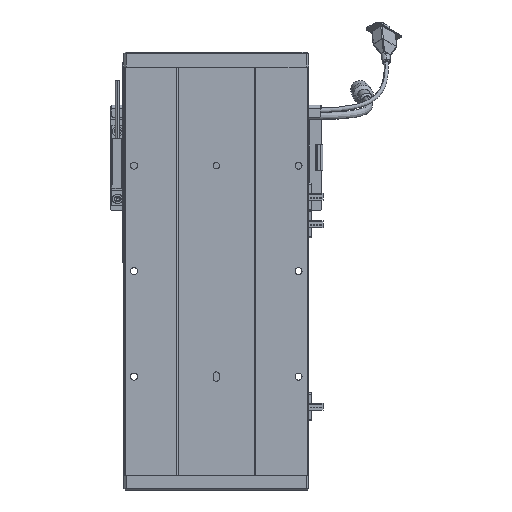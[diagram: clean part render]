
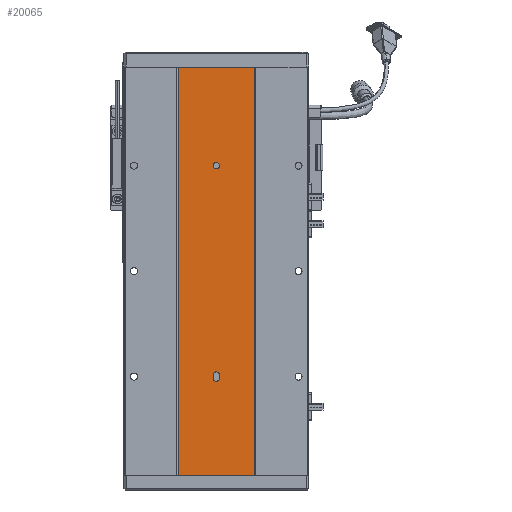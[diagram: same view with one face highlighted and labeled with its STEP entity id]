
A CAD part, front view. The second image highlights one B-rep face of the part: STEP entity #20065.
In plain terms, the highlighted planar face has unit normal (0, -1, 0).
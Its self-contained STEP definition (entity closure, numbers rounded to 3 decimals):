
#2051 = VERTEX_POINT ( 'NONE', #54119 ) ;
#2201 = ORIENTED_EDGE ( 'NONE', *, *, #22267, .F. ) ;
#2232 = FACE_BOUND ( 'NONE', #24826, .T. ) ;
#2708 = ORIENTED_EDGE ( 'NONE', *, *, #57989, .T. ) ;
#3036 = ORIENTED_EDGE ( 'NONE', *, *, #32702, .F. ) ;
#5076 = LINE ( 'NONE', #44108, #45226 ) ;
#5407 = CARTESIAN_POINT ( 'NONE',  ( 3277.529, 1415.701, 95. ) ) ;
#5627 = CARTESIAN_POINT ( 'NONE',  ( 3280.529, 1415.701, 92. ) ) ;
#7286 = VERTEX_POINT ( 'NONE', #48702 ) ;
#7904 = EDGE_CURVE ( 'NONE', #56303, #29080, #41104, .T. ) ;
#8621 = VERTEX_POINT ( 'NONE', #5407 ) ;
#8912 = CARTESIAN_POINT ( 'NONE',  ( 3280.529, 1415.701, 290.5 ) ) ;
#9017 = VECTOR ( 'NONE', #63901, 1000. ) ;
#12755 = DIRECTION ( 'NONE',  ( 1., 0., 0. ) ) ;
#13041 = CARTESIAN_POINT ( 'NONE',  ( 3316.311, 1415.701, 0. ) ) ;
#13828 = ORIENTED_EDGE ( 'NONE', *, *, #32103, .F. ) ;
#13896 = CARTESIAN_POINT ( 'NONE',  ( 3316.311, 1415.701, 387. ) ) ;
#14278 = DIRECTION ( 'NONE',  ( 0., -1., 0. ) ) ;
#14782 = DIRECTION ( 'NONE',  ( 0., -1., 0. ) ) ;
#15936 = VERTEX_POINT ( 'NONE', #56064 ) ;
#16195 = DIRECTION ( 'NONE',  ( 0., -1., 0. ) ) ;
#16410 = VECTOR ( 'NONE', #34480, 1000. ) ;
#16857 = CARTESIAN_POINT ( 'NONE',  ( 3277.529, 1415.701, 95. ) ) ;
#17552 = DIRECTION ( 'NONE',  ( 1., 0., 0. ) ) ;
#17655 = AXIS2_PLACEMENT_3D ( 'NONE', #62516, #36793, #26228 ) ;
#17664 = AXIS2_PLACEMENT_3D ( 'NONE', #24810, #14782, #61754 ) ;
#17772 = CARTESIAN_POINT ( 'NONE',  ( 3244.748, 1415.701, 387. ) ) ;
#18653 = CARTESIAN_POINT ( 'NONE',  ( 3244.748, 1415.701, 387. ) ) ;
#19867 = CARTESIAN_POINT ( 'NONE',  ( 3280.529, 1415.701, 296.5 ) ) ;
#20065 = ADVANCED_FACE ( 'NONE', ( #52278, #2232, #45689 ), #44299, .F. ) ;
#20263 = EDGE_CURVE ( 'NONE', #62845, #8621, #39987, .T. ) ;
#21365 = VERTEX_POINT ( 'NONE', #19867 ) ;
#22067 = VERTEX_POINT ( 'NONE', #8912 ) ;
#22267 = EDGE_CURVE ( 'NONE', #8621, #56303, #42633, .T. ) ;
#23764 = CARTESIAN_POINT ( 'NONE',  ( 3283.529, 1415.701, 92. ) ) ;
#24346 = CARTESIAN_POINT ( 'NONE',  ( 3244.748, 1415.701, 387. ) ) ;
#24639 = ORIENTED_EDGE ( 'NONE', *, *, #28424, .F. ) ;
#24810 = CARTESIAN_POINT ( 'NONE',  ( 3280.529, 1415.701, 95. ) ) ;
#24826 = EDGE_LOOP ( 'NONE', ( #3036, #68092 ) ) ;
#25992 = AXIS2_PLACEMENT_3D ( 'NONE', #24346, #55321, #65925 ) ;
#26228 = DIRECTION ( 'NONE',  ( 0., 0., -1. ) ) ;
#26233 = DIRECTION ( 'NONE',  ( 0., -1., 0. ) ) ;
#27730 = CARTESIAN_POINT ( 'NONE',  ( 3277.529, 1415.701, 92. ) ) ;
#28424 = EDGE_CURVE ( 'NONE', #7286, #38856, #57790, .T. ) ;
#28938 = DIRECTION ( 'NONE',  ( 0., 0., -1. ) ) ;
#29080 = VERTEX_POINT ( 'NONE', #62832 ) ;
#30386 = EDGE_CURVE ( 'NONE', #15936, #38856, #5076, .T. ) ;
#31525 = CARTESIAN_POINT ( 'NONE',  ( 3280.529, 1415.701, 92. ) ) ;
#32103 = EDGE_CURVE ( 'NONE', #2051, #7286, #44183, .T. ) ;
#32702 = EDGE_CURVE ( 'NONE', #22067, #21365, #54791, .T. ) ;
#34480 = DIRECTION ( 'NONE',  ( 0., 0., -1. ) ) ;
#34858 = CARTESIAN_POINT ( 'NONE',  ( 3280.529, 1415.701, 293.5 ) ) ;
#35273 = LINE ( 'NONE', #18653, #16410 ) ;
#35856 = AXIS2_PLACEMENT_3D ( 'NONE', #34858, #14278, #45859 ) ;
#36098 = ORIENTED_EDGE ( 'NONE', *, *, #30386, .T. ) ;
#36143 = DIRECTION ( 'NONE',  ( 0., 0., -1. ) ) ;
#36793 = DIRECTION ( 'NONE',  ( 0., -1., 0. ) ) ;
#38856 = VERTEX_POINT ( 'NONE', #13041 ) ;
#39044 = EDGE_CURVE ( 'NONE', #21365, #22067, #60389, .T. ) ;
#39987 = CIRCLE ( 'NONE', #17664, 3. ) ;
#41104 = CIRCLE ( 'NONE', #56185, 3. ) ;
#41252 = VECTOR ( 'NONE', #44510, 1000. ) ;
#41926 = ORIENTED_EDGE ( 'NONE', *, *, #7904, .F. ) ;
#42633 = LINE ( 'NONE', #16857, #9017 ) ;
#44108 = CARTESIAN_POINT ( 'NONE',  ( 3244.748, 1415.701, 0. ) ) ;
#44129 = EDGE_CURVE ( 'NONE', #29080, #53529, #65492, .T. ) ;
#44183 = LINE ( 'NONE', #17772, #54862 ) ;
#44299 = PLANE ( 'NONE',  #25992 ) ;
#44510 = DIRECTION ( 'NONE',  ( 0., 0., 1. ) ) ;
#44522 = LINE ( 'NONE', #59696, #41252 ) ;
#44886 = ORIENTED_EDGE ( 'NONE', *, *, #55992, .F. ) ;
#45226 = VECTOR ( 'NONE', #12755, 1000. ) ;
#45689 = FACE_OUTER_BOUND ( 'NONE', #59305, .T. ) ;
#45859 = DIRECTION ( 'NONE',  ( 0., 0., -1. ) ) ;
#47312 = EDGE_LOOP ( 'NONE', ( #41926, #2201, #56216, #44886, #53439 ) ) ;
#48702 = CARTESIAN_POINT ( 'NONE',  ( 3316.311, 1415.701, 387. ) ) ;
#49276 = AXIS2_PLACEMENT_3D ( 'NONE', #5627, #26233, #62301 ) ;
#49989 = CARTESIAN_POINT ( 'NONE',  ( 3283.529, 1415.701, 95. ) ) ;
#52278 = FACE_BOUND ( 'NONE', #47312, .T. ) ;
#53439 = ORIENTED_EDGE ( 'NONE', *, *, #44129, .F. ) ;
#53529 = VERTEX_POINT ( 'NONE', #23764 ) ;
#54119 = CARTESIAN_POINT ( 'NONE',  ( 3244.748, 1415.701, 387. ) ) ;
#54791 = CIRCLE ( 'NONE', #35856, 3. ) ;
#54862 = VECTOR ( 'NONE', #17552, 1000. ) ;
#55321 = DIRECTION ( 'NONE',  ( 0., 1., 0. ) ) ;
#55992 = EDGE_CURVE ( 'NONE', #53529, #62845, #44522, .T. ) ;
#56064 = CARTESIAN_POINT ( 'NONE',  ( 3244.748, 1415.701, 0. ) ) ;
#56185 = AXIS2_PLACEMENT_3D ( 'NONE', #31525, #16195, #36143 ) ;
#56216 = ORIENTED_EDGE ( 'NONE', *, *, #20263, .F. ) ;
#56303 = VERTEX_POINT ( 'NONE', #27730 ) ;
#57790 = LINE ( 'NONE', #13896, #61109 ) ;
#57989 = EDGE_CURVE ( 'NONE', #2051, #15936, #35273, .T. ) ;
#59305 = EDGE_LOOP ( 'NONE', ( #36098, #24639, #13828, #2708 ) ) ;
#59696 = CARTESIAN_POINT ( 'NONE',  ( 3283.529, 1415.701, 95. ) ) ;
#60389 = CIRCLE ( 'NONE', #17655, 3. ) ;
#61109 = VECTOR ( 'NONE', #28938, 1000. ) ;
#61754 = DIRECTION ( 'NONE',  ( 0., 0., -1. ) ) ;
#62301 = DIRECTION ( 'NONE',  ( 0., 0., -1. ) ) ;
#62516 = CARTESIAN_POINT ( 'NONE',  ( 3280.529, 1415.701, 293.5 ) ) ;
#62832 = CARTESIAN_POINT ( 'NONE',  ( 3280.529, 1415.701, 89. ) ) ;
#62845 = VERTEX_POINT ( 'NONE', #49989 ) ;
#63901 = DIRECTION ( 'NONE',  ( 0., 0., -1. ) ) ;
#65492 = CIRCLE ( 'NONE', #49276, 3. ) ;
#65925 = DIRECTION ( 'NONE',  ( 0., 0., 1. ) ) ;
#68092 = ORIENTED_EDGE ( 'NONE', *, *, #39044, .F. ) ;
